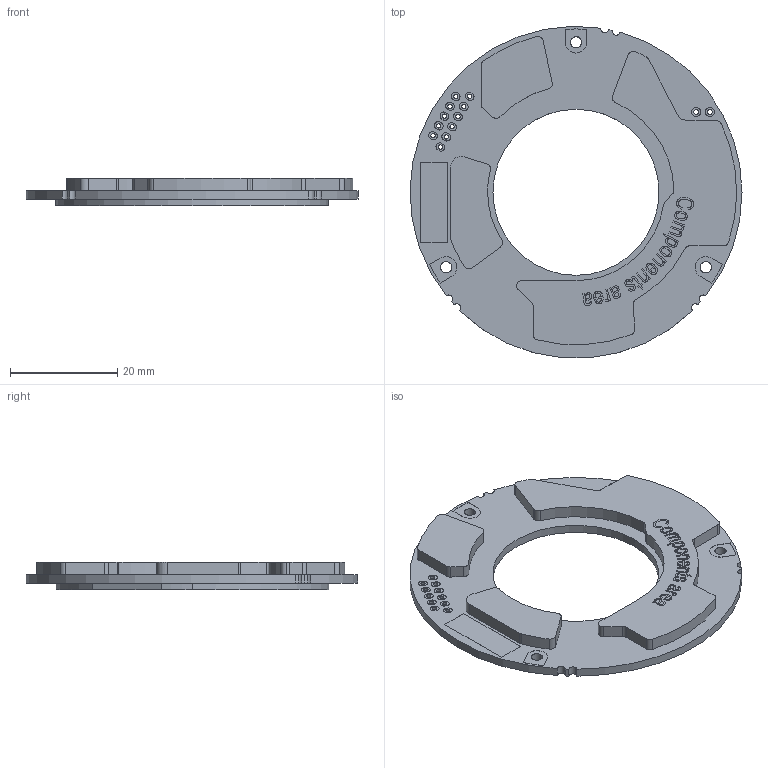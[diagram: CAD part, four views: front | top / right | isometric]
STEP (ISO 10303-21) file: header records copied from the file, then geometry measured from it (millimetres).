
FILE_DESCRIPTION (( 'STEP AP214' ), '1' );
FILE_NAME ('BR30_brez_konektorja_UVW.STEP', '2024-02-23T10:12:57', ( '' ), ( '' ), 'SwSTEP 2.0', 'SolidWorks 2022', '' );
FILE_SCHEMA (( 'AUTOMOTIVE_DESIGN' ));
Length unit declared in the file: millimetre
Products named in the file (1): BR30_brez_konektorja_UVW
Bounding box: 62 x 61.88 x 5.15 mm (x, y, z)
Volume: 7026.5 mm3; surface area: 6024 mm2
Topology: 1 solids, 1 shells, 985 faces, 2624 edges, 1721 vertices
Faces by surface type: plane 575, bspline 240, cylinder 170
Entity records: 53829 total; most frequent: CARTESIAN_POINT 19696, ORIENTED_EDGE 5248, DIRECTION 4055, EDGE_CURVE 2624, VERTEX_POINT 1721, VECTOR 1695, LINE 1695, AXIS2_PLACEMENT_3D 1180
